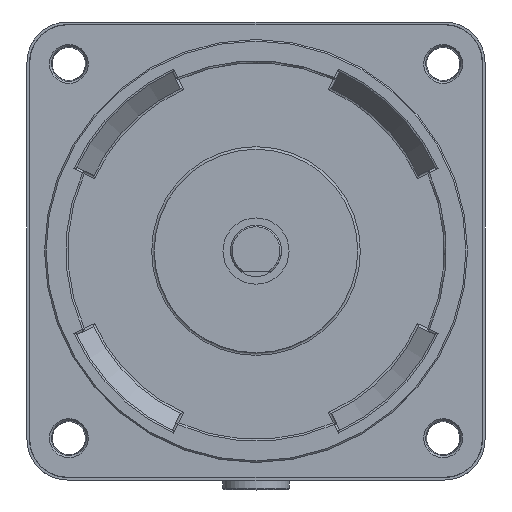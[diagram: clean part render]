
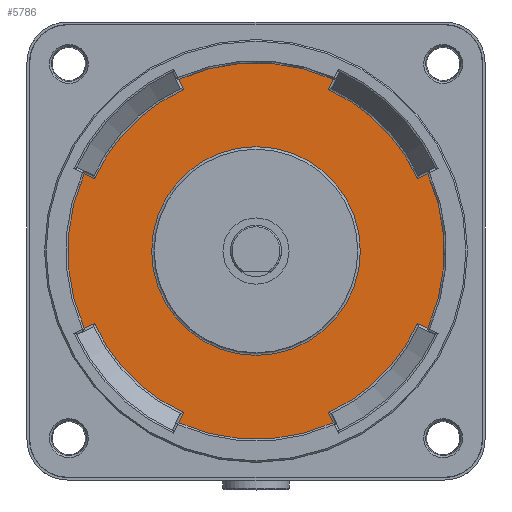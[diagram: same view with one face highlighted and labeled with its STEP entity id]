
A CAD part, top view. The second image highlights one B-rep face of the part: STEP entity #5786.
In plain terms, the highlighted planar face has unit normal (0, 0, 1).
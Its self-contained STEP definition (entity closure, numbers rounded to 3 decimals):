
#22 = FACE_BOUND ( 'NONE', #979, .T. ) ;
#36 = CARTESIAN_POINT ( 'NONE',  ( -33.73, 15.177, -2. ) ) ;
#73 = VERTEX_POINT ( 'NONE', #4271 ) ;
#87 = AXIS2_PLACEMENT_3D ( 'NONE', #6368, #2821, #899 ) ;
#93 = CARTESIAN_POINT ( 'NONE',  ( 0., 0., -2. ) ) ;
#130 = ORIENTED_EDGE ( 'NONE', *, *, #3875, .T. ) ;
#150 = VERTEX_POINT ( 'NONE', #5791 ) ;
#205 = VECTOR ( 'NONE', #252, 1000. ) ;
#252 = DIRECTION ( 'NONE',  ( 0.906, -0.423, 0. ) ) ;
#269 = VERTEX_POINT ( 'NONE', #6503 ) ;
#304 = ORIENTED_EDGE ( 'NONE', *, *, #4007, .T. ) ;
#326 = EDGE_CURVE ( 'NONE', #3342, #3278, #6022, .T. ) ;
#361 = EDGE_CURVE ( 'NONE', #1537, #3342, #4882, .T. ) ;
#399 = ORIENTED_EDGE ( 'NONE', *, *, #5872, .T. ) ;
#474 = VERTEX_POINT ( 'NONE', #3274 ) ;
#476 = CARTESIAN_POINT ( 'NONE',  ( 20.5, 0., -2. ) ) ;
#486 = AXIS2_PLACEMENT_3D ( 'NONE', #1798, #2748, #2267 ) ;
#492 = VERTEX_POINT ( 'NONE', #36 ) ;
#505 = CIRCLE ( 'NONE', #617, 34.775 ) ;
#528 = CARTESIAN_POINT ( 'NONE',  ( 0., 0., -2. ) ) ;
#617 = AXIS2_PLACEMENT_3D ( 'NONE', #5560, #4058, #6085 ) ;
#626 = DIRECTION ( 'NONE',  ( 0., 0., 1. ) ) ;
#642 = AXIS2_PLACEMENT_3D ( 'NONE', #93, #3620, #2144 ) ;
#696 = ORIENTED_EDGE ( 'NONE', *, *, #5711, .T. ) ;
#819 = EDGE_CURVE ( 'NONE', #3737, #492, #6015, .T. ) ;
#879 = CARTESIAN_POINT ( 'NONE',  ( 31.725, 14.242, -2. ) ) ;
#899 = DIRECTION ( 'NONE',  ( 1., 0., 0. ) ) ;
#934 = DIRECTION ( 'NONE',  ( 0., 0., -1. ) ) ;
#946 = CARTESIAN_POINT ( 'NONE',  ( -0.211, -0.453, -2. ) ) ;
#953 = LINE ( 'NONE', #3012, #1501 ) ;
#969 = DIRECTION ( 'NONE',  ( 1., 0., 0. ) ) ;
#979 = EDGE_LOOP ( 'NONE', ( #399 ) ) ;
#993 = VERTEX_POINT ( 'NONE', #476 ) ;
#1036 = DIRECTION ( 'NONE',  ( 0.906, 0.423, 0. ) ) ;
#1067 = VECTOR ( 'NONE', #1036, 1000. ) ;
#1135 = EDGE_CURVE ( 'NONE', #150, #73, #4425, .T. ) ;
#1253 = ORIENTED_EDGE ( 'NONE', *, *, #1503, .T. ) ;
#1297 = ORIENTED_EDGE ( 'NONE', *, *, #6021, .T. ) ;
#1501 = VECTOR ( 'NONE', #3991, 1000. ) ;
#1503 = EDGE_CURVE ( 'NONE', #492, #3915, #4970, .T. ) ;
#1537 = VERTEX_POINT ( 'NONE', #5263 ) ;
#1558 = CARTESIAN_POINT ( 'NONE',  ( 0., 0., -2. ) ) ;
#1686 = CARTESIAN_POINT ( 'NONE',  ( 15.177, 33.73, -2. ) ) ;
#1798 = CARTESIAN_POINT ( 'NONE',  ( 0., 0., -2. ) ) ;
#2002 = DIRECTION ( 'NONE',  ( 0., 0., 1. ) ) ;
#2067 = EDGE_CURVE ( 'NONE', #3849, #4508, #4247, .T. ) ;
#2088 = AXIS2_PLACEMENT_3D ( 'NONE', #1558, #4065, #3609 ) ;
#2144 = DIRECTION ( 'NONE',  ( 1., 0., 0. ) ) ;
#2214 = DIRECTION ( 'NONE',  ( 0.423, 0.906, 0. ) ) ;
#2267 = DIRECTION ( 'NONE',  ( 1., 0., 0. ) ) ;
#2388 = DIRECTION ( 'NONE',  ( -0.906, -0.423, 0. ) ) ;
#2494 = ORIENTED_EDGE ( 'NONE', *, *, #819, .T. ) ;
#2586 = VERTEX_POINT ( 'NONE', #6186 ) ;
#2649 = FACE_OUTER_BOUND ( 'NONE', #6407, .T. ) ;
#2672 = CIRCLE ( 'NONE', #87, 34.775 ) ;
#2675 = CIRCLE ( 'NONE', #4574, 34.775 ) ;
#2715 = DIRECTION ( 'NONE',  ( 1., 0., 0. ) ) ;
#2748 = DIRECTION ( 'NONE',  ( 0., 0., 1. ) ) ;
#2805 = CARTESIAN_POINT ( 'NONE',  ( 14.338, -31.932, -2. ) ) ;
#2813 = CARTESIAN_POINT ( 'NONE',  ( 0.211, 0.453, -2. ) ) ;
#2821 = DIRECTION ( 'NONE',  ( 0., 0., 1. ) ) ;
#2920 = VERTEX_POINT ( 'NONE', #3246 ) ;
#2991 = CARTESIAN_POINT ( 'NONE',  ( -31.725, -14.242, -2. ) ) ;
#2992 = EDGE_CURVE ( 'NONE', #474, #2920, #505, .T. ) ;
#3008 = DIRECTION ( 'NONE',  ( -0.906, 0.423, 0. ) ) ;
#3012 = CARTESIAN_POINT ( 'NONE',  ( -14.338, 31.932, -2. ) ) ;
#3207 = CARTESIAN_POINT ( 'NONE',  ( -0.453, 0.211, -2. ) ) ;
#3229 = AXIS2_PLACEMENT_3D ( 'NONE', #4391, #934, #5933 ) ;
#3246 = CARTESIAN_POINT ( 'NONE',  ( 31.725, -14.242, -2. ) ) ;
#3274 = CARTESIAN_POINT ( 'NONE',  ( 14.242, -31.725, -2. ) ) ;
#3278 = VERTEX_POINT ( 'NONE', #5063 ) ;
#3299 = ORIENTED_EDGE ( 'NONE', *, *, #2992, .T. ) ;
#3308 = ORIENTED_EDGE ( 'NONE', *, *, #1135, .T. ) ;
#3342 = VERTEX_POINT ( 'NONE', #5092 ) ;
#3371 = ORIENTED_EDGE ( 'NONE', *, *, #5305, .T. ) ;
#3595 = AXIS2_PLACEMENT_3D ( 'NONE', #4243, #5165, #6279 ) ;
#3609 = DIRECTION ( 'NONE',  ( 1., 0., 0. ) ) ;
#3620 = DIRECTION ( 'NONE',  ( 0., 0., 1. ) ) ;
#3641 = CIRCLE ( 'NONE', #6382, 36.987 ) ;
#3737 = VERTEX_POINT ( 'NONE', #5043 ) ;
#3754 = CARTESIAN_POINT ( 'NONE',  ( 0., 0., -2. ) ) ;
#3785 = EDGE_CURVE ( 'NONE', #6446, #1537, #2675, .T. ) ;
#3849 = VERTEX_POINT ( 'NONE', #5768 ) ;
#3875 = EDGE_CURVE ( 'NONE', #2920, #150, #5298, .T. ) ;
#3915 = VERTEX_POINT ( 'NONE', #4771 ) ;
#3920 = DIRECTION ( 'NONE',  ( -0.423, -0.906, 0. ) ) ;
#3943 = AXIS2_PLACEMENT_3D ( 'NONE', #4389, #2002, #969 ) ;
#3991 = DIRECTION ( 'NONE',  ( 0.423, -0.906, 0. ) ) ;
#4007 = EDGE_CURVE ( 'NONE', #269, #3737, #4994, .T. ) ;
#4058 = DIRECTION ( 'NONE',  ( 0., 0., 1. ) ) ;
#4065 = DIRECTION ( 'NONE',  ( 0., 0., 1. ) ) ;
#4208 = EDGE_CURVE ( 'NONE', #4508, #2586, #3641, .T. ) ;
#4243 = CARTESIAN_POINT ( 'NONE',  ( 0., 0., -2. ) ) ;
#4247 = LINE ( 'NONE', #3207, #5723 ) ;
#4271 = CARTESIAN_POINT ( 'NONE',  ( 33.73, 15.177, -2. ) ) ;
#4389 = CARTESIAN_POINT ( 'NONE',  ( 0., 0., -2. ) ) ;
#4391 = CARTESIAN_POINT ( 'NONE',  ( 0., 0., -2. ) ) ;
#4425 = CIRCLE ( 'NONE', #3595, 36.987 ) ;
#4508 = VERTEX_POINT ( 'NONE', #1686 ) ;
#4574 = AXIS2_PLACEMENT_3D ( 'NONE', #528, #4670, #5199 ) ;
#4608 = ORIENTED_EDGE ( 'NONE', *, *, #6203, .T. ) ;
#4633 = LINE ( 'NONE', #6167, #1067 ) ;
#4641 = VECTOR ( 'NONE', #3920, 1000. ) ;
#4668 = PLANE ( 'NONE',  #642 ) ;
#4670 = DIRECTION ( 'NONE',  ( 0., 0., 1. ) ) ;
#4771 = CARTESIAN_POINT ( 'NONE',  ( -33.73, -15.177, -2. ) ) ;
#4882 = LINE ( 'NONE', #6447, #4641 ) ;
#4891 = VECTOR ( 'NONE', #2388, 1000. ) ;
#4892 = LINE ( 'NONE', #5859, #4891 ) ;
#4915 = EDGE_CURVE ( 'NONE', #6223, #3849, #2672, .T. ) ;
#4970 = CIRCLE ( 'NONE', #486, 36.987 ) ;
#4994 = CIRCLE ( 'NONE', #3943, 34.775 ) ;
#5006 = CIRCLE ( 'NONE', #3229, 20.5 ) ;
#5043 = CARTESIAN_POINT ( 'NONE',  ( -31.725, 14.242, -2. ) ) ;
#5063 = CARTESIAN_POINT ( 'NONE',  ( 15.177, -33.73, -2. ) ) ;
#5092 = CARTESIAN_POINT ( 'NONE',  ( -15.177, -33.73, -2. ) ) ;
#5097 = ORIENTED_EDGE ( 'NONE', *, *, #3785, .T. ) ;
#5132 = ORIENTED_EDGE ( 'NONE', *, *, #361, .T. ) ;
#5165 = DIRECTION ( 'NONE',  ( 0., 0., 1. ) ) ;
#5199 = DIRECTION ( 'NONE',  ( 1., 0., 0. ) ) ;
#5263 = CARTESIAN_POINT ( 'NONE',  ( -14.242, -31.725, -2. ) ) ;
#5289 = DIRECTION ( 'NONE',  ( -0.423, 0.906, 0. ) ) ;
#5298 = LINE ( 'NONE', #2813, #205 ) ;
#5305 = EDGE_CURVE ( 'NONE', #73, #6223, #4892, .T. ) ;
#5324 = LINE ( 'NONE', #2805, #6286 ) ;
#5372 = ORIENTED_EDGE ( 'NONE', *, *, #326, .T. ) ;
#5560 = CARTESIAN_POINT ( 'NONE',  ( 0., 0., -2. ) ) ;
#5708 = VECTOR ( 'NONE', #3008, 1000. ) ;
#5711 = EDGE_CURVE ( 'NONE', #3915, #6446, #4633, .T. ) ;
#5723 = VECTOR ( 'NONE', #2214, 1000. ) ;
#5768 = CARTESIAN_POINT ( 'NONE',  ( 14.242, 31.725, -2. ) ) ;
#5786 = ADVANCED_FACE ( 'NONE', ( #2649, #22 ), #4668, .T. ) ;
#5791 = CARTESIAN_POINT ( 'NONE',  ( 33.73, -15.177, -2. ) ) ;
#5859 = CARTESIAN_POINT ( 'NONE',  ( 31.932, 14.338, -2. ) ) ;
#5872 = EDGE_CURVE ( 'NONE', #993, #993, #5006, .T. ) ;
#5933 = DIRECTION ( 'NONE',  ( 1., 0., 0. ) ) ;
#6015 = LINE ( 'NONE', #946, #5708 ) ;
#6021 = EDGE_CURVE ( 'NONE', #3278, #474, #5324, .T. ) ;
#6022 = CIRCLE ( 'NONE', #2088, 36.987 ) ;
#6085 = DIRECTION ( 'NONE',  ( 1., 0., 0. ) ) ;
#6167 = CARTESIAN_POINT ( 'NONE',  ( -31.932, -14.338, -2. ) ) ;
#6184 = ORIENTED_EDGE ( 'NONE', *, *, #4915, .T. ) ;
#6186 = CARTESIAN_POINT ( 'NONE',  ( -15.177, 33.73, -2. ) ) ;
#6203 = EDGE_CURVE ( 'NONE', #2586, #269, #953, .T. ) ;
#6223 = VERTEX_POINT ( 'NONE', #879 ) ;
#6279 = DIRECTION ( 'NONE',  ( 1., 0., 0. ) ) ;
#6286 = VECTOR ( 'NONE', #5289, 1000. ) ;
#6368 = CARTESIAN_POINT ( 'NONE',  ( 0., 0., -2. ) ) ;
#6382 = AXIS2_PLACEMENT_3D ( 'NONE', #3754, #626, #2715 ) ;
#6407 = EDGE_LOOP ( 'NONE', ( #130, #3308, #3371, #6184, #6594, #6571, #4608, #304, #2494, #1253, #696, #5097, #5132, #5372, #1297, #3299 ) ) ;
#6446 = VERTEX_POINT ( 'NONE', #2991 ) ;
#6447 = CARTESIAN_POINT ( 'NONE',  ( 0.453, -0.211, -2. ) ) ;
#6503 = CARTESIAN_POINT ( 'NONE',  ( -14.242, 31.725, -2. ) ) ;
#6571 = ORIENTED_EDGE ( 'NONE', *, *, #4208, .T. ) ;
#6594 = ORIENTED_EDGE ( 'NONE', *, *, #2067, .T. ) ;
